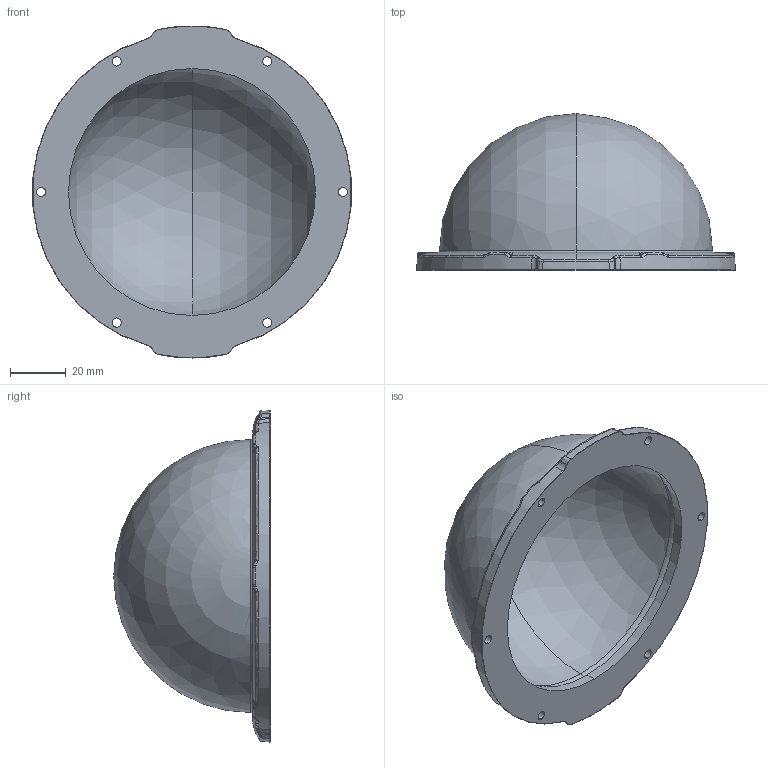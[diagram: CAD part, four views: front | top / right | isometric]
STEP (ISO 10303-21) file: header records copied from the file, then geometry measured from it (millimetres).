
FILE_DESCRIPTION (( 'STEP AP203' ), '1' );
FILE_NAME ('WTE4-P-DOME-R2.STEP', '2017-03-21T16:36:47', ( '' ), ( '' ), 'SwSTEP 2.0', 'SolidWorks 2014', '' );
FILE_SCHEMA (( 'CONFIG_CONTROL_DESIGN' ));
Length unit declared in the file: inch
Products named in the file (1): WTE4-P-DOME-R2
Bounding box: 114.05 x 56.04 x 118.87 mm (x, y, z)
Volume: 70326.8 mm3; surface area: 43885.9 mm2
Topology: 2 solids, 2 shells, 209 faces, 520 edges, 301 vertices
Faces by surface type: bspline 100, torus 36, cylinder 30, plane 26, cone 9, sphere 8
Entity records: 7750 total; most frequent: CARTESIAN_POINT 3633, ORIENTED_EDGE 974, DIRECTION 687, EDGE_CURVE 487, AXIS2_PLACEMENT_3D 318, VERTEX_POINT 288, EDGE_LOOP 221, B_SPLINE_CURVE_WITH_KNOTS 212
